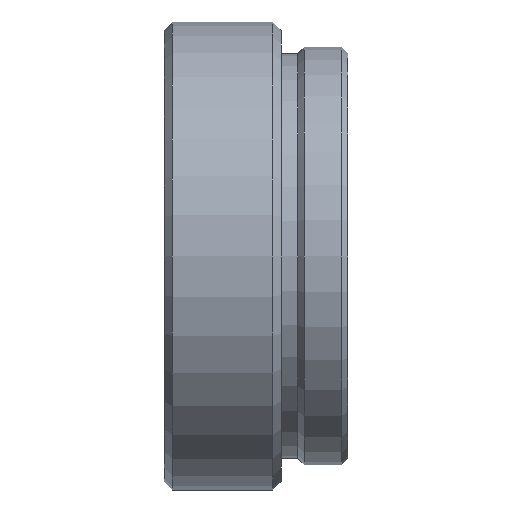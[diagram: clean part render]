
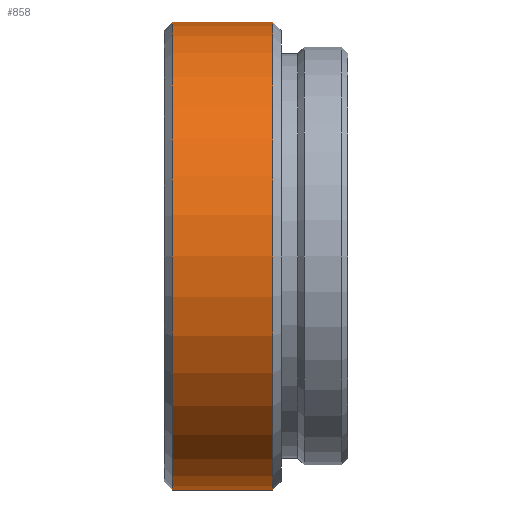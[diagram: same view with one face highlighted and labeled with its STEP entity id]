
A CAD part, front view. The second image highlights one B-rep face of the part: STEP entity #858.
In plain terms, the highlighted cylindrical face has radius 14 mm (diameter 28 mm), a partial arc.
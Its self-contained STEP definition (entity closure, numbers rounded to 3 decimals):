
#28 = VECTOR ( 'NONE', #502, 1000. ) ;
#30 = DIRECTION ( 'NONE',  ( 1., 0., 0. ) ) ;
#39 = LINE ( 'NONE', #565, #28 ) ;
#49 = EDGE_CURVE ( 'NONE', #655, #517, #39, .T. ) ;
#53 = ORIENTED_EDGE ( 'NONE', *, *, #49, .T. ) ;
#165 = EDGE_LOOP ( 'NONE', ( #743, #382, #53, #621 ) ) ;
#275 = VERTEX_POINT ( 'NONE', #319 ) ;
#289 = DIRECTION ( 'NONE',  ( 1., 0., 0. ) ) ;
#296 = CARTESIAN_POINT ( 'NONE',  ( 2.5, 0., 14. ) ) ;
#314 = DIRECTION ( 'NONE',  ( 1., 0., 0. ) ) ;
#319 = CARTESIAN_POINT ( 'NONE',  ( -10.5, 0., 14. ) ) ;
#338 = EDGE_CURVE ( 'NONE', #718, #517, #708, .T. ) ;
#382 = ORIENTED_EDGE ( 'NONE', *, *, #679, .T. ) ;
#420 = CARTESIAN_POINT ( 'NONE',  ( -10.5, 0., -14. ) ) ;
#422 = AXIS2_PLACEMENT_3D ( 'NONE', #428, #289, #574 ) ;
#424 = CARTESIAN_POINT ( 'NONE',  ( -4.5, 0., 14. ) ) ;
#428 = CARTESIAN_POINT ( 'NONE',  ( -10.5, 0., 0. ) ) ;
#477 = CIRCLE ( 'NONE', #422, 14. ) ;
#502 = DIRECTION ( 'NONE',  ( 1., 0., 0. ) ) ;
#517 = VERTEX_POINT ( 'NONE', #545 ) ;
#545 = CARTESIAN_POINT ( 'NONE',  ( -4.5, 0., -14. ) ) ;
#557 = AXIS2_PLACEMENT_3D ( 'NONE', #782, #850, #730 ) ;
#565 = CARTESIAN_POINT ( 'NONE',  ( 2.5, 0., -14. ) ) ;
#572 = CYLINDRICAL_SURFACE ( 'NONE', #588, 14. ) ;
#574 = DIRECTION ( 'NONE',  ( 0., 0., -1. ) ) ;
#586 = VECTOR ( 'NONE', #30, 1000. ) ;
#588 = AXIS2_PLACEMENT_3D ( 'NONE', #716, #314, #650 ) ;
#599 = FACE_OUTER_BOUND ( 'NONE', #165, .T. ) ;
#612 = EDGE_CURVE ( 'NONE', #275, #718, #753, .T. ) ;
#621 = ORIENTED_EDGE ( 'NONE', *, *, #338, .F. ) ;
#650 = DIRECTION ( 'NONE',  ( 0., 0., -1. ) ) ;
#655 = VERTEX_POINT ( 'NONE', #420 ) ;
#679 = EDGE_CURVE ( 'NONE', #275, #655, #477, .T. ) ;
#708 = CIRCLE ( 'NONE', #557, 14. ) ;
#716 = CARTESIAN_POINT ( 'NONE',  ( 2.5, 0., 0. ) ) ;
#718 = VERTEX_POINT ( 'NONE', #424 ) ;
#730 = DIRECTION ( 'NONE',  ( 0., 0., -1. ) ) ;
#743 = ORIENTED_EDGE ( 'NONE', *, *, #612, .F. ) ;
#753 = LINE ( 'NONE', #296, #586 ) ;
#782 = CARTESIAN_POINT ( 'NONE',  ( -4.5, 0., 0. ) ) ;
#850 = DIRECTION ( 'NONE',  ( 1., 0., 0. ) ) ;
#858 = ADVANCED_FACE ( 'NONE', ( #599 ), #572, .T. ) ;
